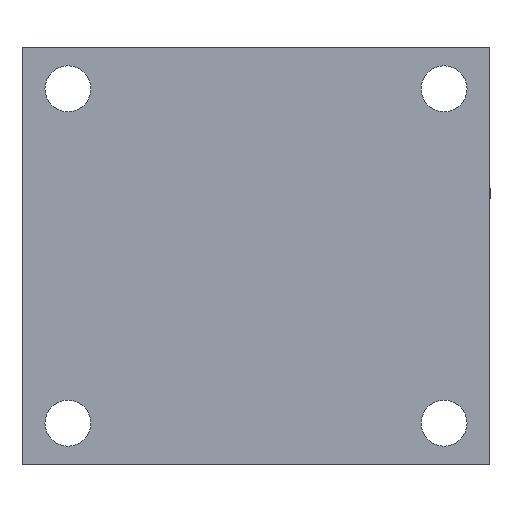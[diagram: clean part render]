
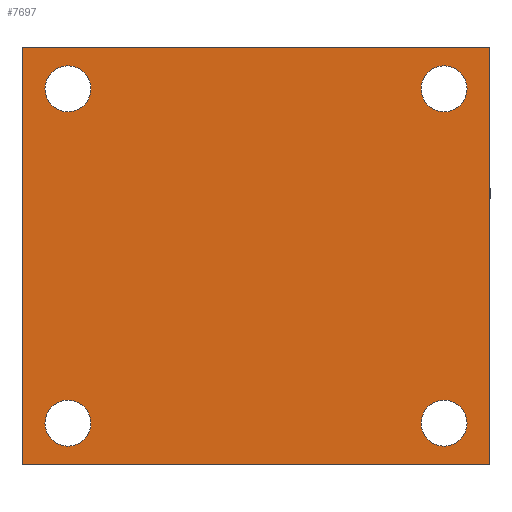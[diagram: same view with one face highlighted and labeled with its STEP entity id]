
A CAD part, front view. The second image highlights one B-rep face of the part: STEP entity #7697.
In plain terms, the highlighted planar face has unit normal (0, -1, 0).
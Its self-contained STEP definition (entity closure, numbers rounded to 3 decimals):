
#60 = DIRECTION ( 'NONE',  ( 0., 1., 0. ) ) ;
#96 = DIRECTION ( 'NONE',  ( 0., -1., 0. ) ) ;
#104 = DIRECTION ( 'NONE',  ( 0., 0., -1. ) ) ;
#113 = DIRECTION ( 'NONE',  ( 0., 0., 1. ) ) ;
#135 = AXIS2_PLACEMENT_3D ( 'NONE', #928, #96, #104 ) ;
#194 = CARTESIAN_POINT ( 'NONE',  ( 0., 0., -100. ) ) ;
#321 = DIRECTION ( 'NONE',  ( 0., 0., 1. ) ) ;
#370 = VERTEX_POINT ( 'NONE', #8979 ) ;
#496 = ORIENTED_EDGE ( 'NONE', *, *, #939, .F. ) ;
#555 = FACE_BOUND ( 'NONE', #7863, .T. ) ;
#907 = FACE_BOUND ( 'NONE', #5431, .T. ) ;
#920 = CIRCLE ( 'NONE', #7121, 5.5 ) ;
#928 = CARTESIAN_POINT ( 'NONE',  ( 0., 0., -100. ) ) ;
#939 = EDGE_CURVE ( 'NONE', #5825, #4805, #7496, .T. ) ;
#972 = EDGE_CURVE ( 'NONE', #6389, #2101, #7702, .T. ) ;
#1001 = EDGE_CURVE ( 'NONE', #5584, #5732, #6792, .T. ) ;
#1002 = EDGE_CURVE ( 'NONE', #6061, #370, #8550, .T. ) ;
#1019 = EDGE_CURVE ( 'NONE', #5130, #6319, #7268, .T. ) ;
#1038 = CARTESIAN_POINT ( 'NONE',  ( 0., 0., -100. ) ) ;
#1075 = DIRECTION ( 'NONE',  ( 1., 0., 0. ) ) ;
#1134 = FACE_BOUND ( 'NONE', #2147, .T. ) ;
#1169 = FACE_BOUND ( 'NONE', #2246, .T. ) ;
#1209 = ORIENTED_EDGE ( 'NONE', *, *, #1703, .T. ) ;
#1506 = EDGE_CURVE ( 'NONE', #6319, #5130, #5162, .T. ) ;
#1549 = DIRECTION ( 'NONE',  ( 0., 1., 0. ) ) ;
#1658 = CARTESIAN_POINT ( 'NONE',  ( 101., 0., -84.5 ) ) ;
#1703 = EDGE_CURVE ( 'NONE', #370, #6061, #920, .T. ) ;
#1762 = EDGE_CURVE ( 'NONE', #2101, #6389, #6723, .T. ) ;
#1789 = FACE_OUTER_BOUND ( 'NONE', #3537, .T. ) ;
#1862 = EDGE_CURVE ( 'NONE', #5732, #5584, #5728, .T. ) ;
#1872 = CARTESIAN_POINT ( 'NONE',  ( 11., 0., -90. ) ) ;
#1915 = CARTESIAN_POINT ( 'NONE',  ( 101., 0., -10. ) ) ;
#1969 = DIRECTION ( 'NONE',  ( 1., 0., 0. ) ) ;
#2022 = EDGE_CURVE ( 'NONE', #5957, #3069, #2217, .T. ) ;
#2101 = VERTEX_POINT ( 'NONE', #2164 ) ;
#2147 = EDGE_LOOP ( 'NONE', ( #7704, #6344 ) ) ;
#2164 = CARTESIAN_POINT ( 'NONE',  ( 101., 0., -15.5 ) ) ;
#2180 = ORIENTED_EDGE ( 'NONE', *, *, #1001, .T. ) ;
#2217 = LINE ( 'NONE', #1038, #7186 ) ;
#2246 = EDGE_LOOP ( 'NONE', ( #6003, #1209 ) ) ;
#2374 = EDGE_CURVE ( 'NONE', #5957, #5825, #5276, .T. ) ;
#2383 = CARTESIAN_POINT ( 'NONE',  ( 11., 0., -10. ) ) ;
#2467 = CARTESIAN_POINT ( 'NONE',  ( 11., 0., -90. ) ) ;
#2586 = EDGE_CURVE ( 'NONE', #3069, #4805, #8355, .T. ) ;
#2647 = DIRECTION ( 'NONE',  ( 0., 0., 1. ) ) ;
#2731 = DIRECTION ( 'NONE',  ( 0., 1., 0. ) ) ;
#2982 = CARTESIAN_POINT ( 'NONE',  ( 101., 0., -4.5 ) ) ;
#3069 = VERTEX_POINT ( 'NONE', #8940 ) ;
#3202 = CARTESIAN_POINT ( 'NONE',  ( 101., 0., -95.5 ) ) ;
#3358 = AXIS2_PLACEMENT_3D ( 'NONE', #7555, #7775, #8050 ) ;
#3493 = AXIS2_PLACEMENT_3D ( 'NONE', #2383, #1549, #7190 ) ;
#3497 = AXIS2_PLACEMENT_3D ( 'NONE', #2467, #2731, #7763 ) ;
#3511 = AXIS2_PLACEMENT_3D ( 'NONE', #3818, #9089, #3650 ) ;
#3537 = EDGE_LOOP ( 'NONE', ( #496, #4542, #3830, #7375 ) ) ;
#3650 = DIRECTION ( 'NONE',  ( 0., 0., 1. ) ) ;
#3695 = VECTOR ( 'NONE', #1969, 1000. ) ;
#3818 = CARTESIAN_POINT ( 'NONE',  ( 101., 0., -90. ) ) ;
#3830 = ORIENTED_EDGE ( 'NONE', *, *, #2022, .T. ) ;
#3839 = DIRECTION ( 'NONE',  ( 0., 1., 0. ) ) ;
#4542 = ORIENTED_EDGE ( 'NONE', *, *, #2374, .F. ) ;
#4805 = VERTEX_POINT ( 'NONE', #6278 ) ;
#4986 = CARTESIAN_POINT ( 'NONE',  ( 101., 0., -90. ) ) ;
#5051 = VECTOR ( 'NONE', #113, 1000. ) ;
#5130 = VERTEX_POINT ( 'NONE', #1658 ) ;
#5162 = CIRCLE ( 'NONE', #6941, 5.5 ) ;
#5276 = LINE ( 'NONE', #194, #5051 ) ;
#5431 = EDGE_LOOP ( 'NONE', ( #2180, #6673 ) ) ;
#5584 = VERTEX_POINT ( 'NONE', #7640 ) ;
#5728 = CIRCLE ( 'NONE', #7072, 5.5 ) ;
#5732 = VERTEX_POINT ( 'NONE', #8251 ) ;
#5825 = VERTEX_POINT ( 'NONE', #6020 ) ;
#5957 = VERTEX_POINT ( 'NONE', #6503 ) ;
#6003 = ORIENTED_EDGE ( 'NONE', *, *, #1002, .T. ) ;
#6020 = CARTESIAN_POINT ( 'NONE',  ( 0., 0., 0. ) ) ;
#6061 = VERTEX_POINT ( 'NONE', #6932 ) ;
#6278 = CARTESIAN_POINT ( 'NONE',  ( 112., 0., 0. ) ) ;
#6319 = VERTEX_POINT ( 'NONE', #3202 ) ;
#6338 = DIRECTION ( 'NONE',  ( 0., 0., 1. ) ) ;
#6344 = ORIENTED_EDGE ( 'NONE', *, *, #1506, .T. ) ;
#6389 = VERTEX_POINT ( 'NONE', #2982 ) ;
#6503 = CARTESIAN_POINT ( 'NONE',  ( 0., 0., -100. ) ) ;
#6673 = ORIENTED_EDGE ( 'NONE', *, *, #1862, .T. ) ;
#6723 = CIRCLE ( 'NONE', #7101, 5.5 ) ;
#6792 = CIRCLE ( 'NONE', #3493, 5.5 ) ;
#6889 = PLANE ( 'NONE',  #135 ) ;
#6932 = CARTESIAN_POINT ( 'NONE',  ( 11., 0., -84.5 ) ) ;
#6941 = AXIS2_PLACEMENT_3D ( 'NONE', #4986, #60, #2647 ) ;
#7072 = AXIS2_PLACEMENT_3D ( 'NONE', #8866, #8873, #8895 ) ;
#7101 = AXIS2_PLACEMENT_3D ( 'NONE', #1915, #3839, #7981 ) ;
#7121 = AXIS2_PLACEMENT_3D ( 'NONE', #1872, #8733, #321 ) ;
#7186 = VECTOR ( 'NONE', #1075, 1000. ) ;
#7190 = DIRECTION ( 'NONE',  ( 0., 0., 1. ) ) ;
#7268 = CIRCLE ( 'NONE', #3511, 5.5 ) ;
#7375 = ORIENTED_EDGE ( 'NONE', *, *, #2586, .T. ) ;
#7411 = ORIENTED_EDGE ( 'NONE', *, *, #1762, .T. ) ;
#7496 = LINE ( 'NONE', #8670, #3695 ) ;
#7555 = CARTESIAN_POINT ( 'NONE',  ( 101., 0., -10. ) ) ;
#7640 = CARTESIAN_POINT ( 'NONE',  ( 11., 0., -4.5 ) ) ;
#7697 = ADVANCED_FACE ( 'NONE', ( #1169, #1134, #555, #907, #1789 ), #6889, .T. ) ;
#7702 = CIRCLE ( 'NONE', #3358, 5.5 ) ;
#7704 = ORIENTED_EDGE ( 'NONE', *, *, #1019, .T. ) ;
#7763 = DIRECTION ( 'NONE',  ( 0., 0., 1. ) ) ;
#7775 = DIRECTION ( 'NONE',  ( 0., 1., 0. ) ) ;
#7863 = EDGE_LOOP ( 'NONE', ( #8346, #7411 ) ) ;
#7981 = DIRECTION ( 'NONE',  ( 0., 0., 1. ) ) ;
#8050 = DIRECTION ( 'NONE',  ( 0., 0., 1. ) ) ;
#8251 = CARTESIAN_POINT ( 'NONE',  ( 11., 0., -15.5 ) ) ;
#8346 = ORIENTED_EDGE ( 'NONE', *, *, #972, .T. ) ;
#8355 = LINE ( 'NONE', #8461, #8483 ) ;
#8461 = CARTESIAN_POINT ( 'NONE',  ( 112., 0., -100. ) ) ;
#8483 = VECTOR ( 'NONE', #6338, 1000. ) ;
#8550 = CIRCLE ( 'NONE', #3497, 5.5 ) ;
#8670 = CARTESIAN_POINT ( 'NONE',  ( 0., 0., 0. ) ) ;
#8733 = DIRECTION ( 'NONE',  ( 0., 1., 0. ) ) ;
#8866 = CARTESIAN_POINT ( 'NONE',  ( 11., 0., -10. ) ) ;
#8873 = DIRECTION ( 'NONE',  ( 0., 1., 0. ) ) ;
#8895 = DIRECTION ( 'NONE',  ( 0., 0., 1. ) ) ;
#8940 = CARTESIAN_POINT ( 'NONE',  ( 112., 0., -100. ) ) ;
#8979 = CARTESIAN_POINT ( 'NONE',  ( 11., 0., -95.5 ) ) ;
#9089 = DIRECTION ( 'NONE',  ( 0., 1., 0. ) ) ;
